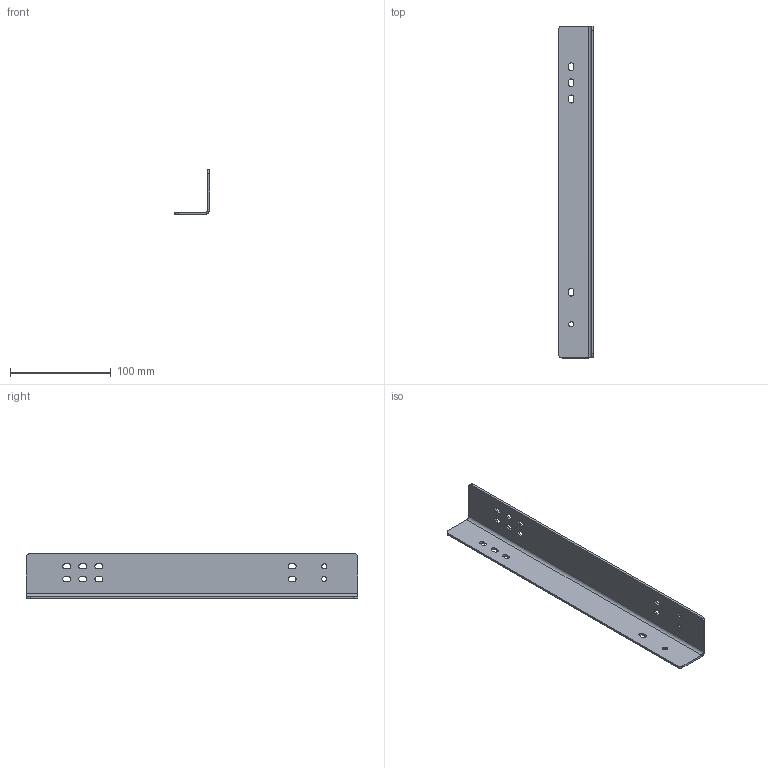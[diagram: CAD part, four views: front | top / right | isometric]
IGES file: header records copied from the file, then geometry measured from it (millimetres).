
Global section: file name: WI_1305319-330_rechts; native system: Autodesk Inventor 2015; preprocessor: unknown; author: MelKon; date: 20171024.133034; units: millimetre
Bounding box: 35 x 330 x 44.7 mm (x, y, z)
Volume: 49171.6 mm3; surface area: 51398.5 mm2
Topology: 1 solids, 1 shells, 65 faces, 189 edges, 126 vertices
Faces by surface type: bspline 65
